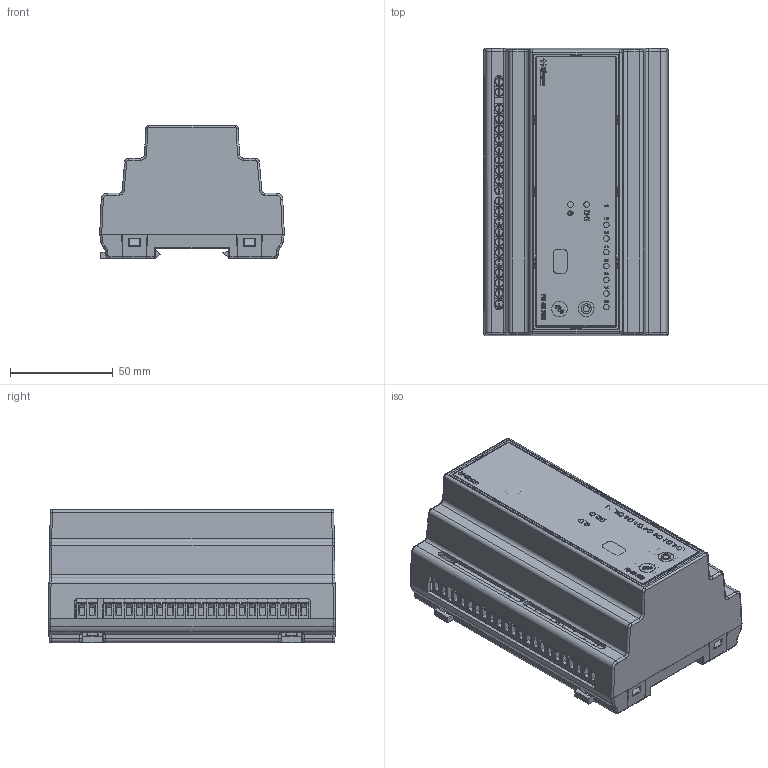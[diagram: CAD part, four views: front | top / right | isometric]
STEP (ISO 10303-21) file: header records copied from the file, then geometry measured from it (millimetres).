
FILE_DESCRIPTION(/* description */ (''),/* implementation_level */ '2;1');
FILE_NAME(/* name */ 'PS-08 230.step',/* time_stamp */ '2026-01-24T09:53:17+01:00',/* author */ (''),/* organization */ (''),/* preprocessor_version */ 'ST-DEVELOPER v20.1',/* originating_system */ 'Autodesk Translation Framework v14.24.0.0',/* authorisation */ '');
FILE_SCHEMA (('AUTOMOTIVE_DESIGN { 1 0 10303 214 3 1 1 }'));
Products named in the file (29): OP-1017backup; OP-1017_A; OP-1017_B_3; OP-1017_D; NAK_1017_D; ST-1007_2_0_E; PCB Component; Board; VP31; B_SMD_WA; TO252; 317TS; 1X12; SOT23; SOD80C; SOT23@1; R0805; C1206; E5-10,5; TE5; FIDUCIAL_G10; ANGLE-SW1-16_1; HF46F; 140CLH-1010; Skręcana łączka_1pin; Dystans M3-01; PS-08m230 naklejka; OP-267-D; S_023.05.000.00064 /...63
Assembly tree (97 placements, depth 4):
  OP-1017backup
    OP-1017_A
    OP-1017_B_3
    OP-1017_D
    NAK_1017_D
    OP-267-D  x2
    S_023.05.000.00064 /...63  x4
    ST-1007_2_0_E
      PCB Component
        Board
        SOD80C  x8
        SOT23@1  x8
        R0805  x8
        C1206  x2
        E5-10,5  x2
        VP31
        B_SMD_WA
        TE5  x2
        FIDUCIAL_G10  x6
        ANGLE-SW1-16_1  x6
        HF46F  x8
        TO252
        317TS
        1X12
        SOT23
        140CLH-1010  x4
        Skręcana łączka_1pin  x22
    Dystans M3-01
    PS-08m230 naklejka
Bounding box: 90 x 140 x 65.1 mm (x, y, z)
Volume: 134691.1 mm3; surface area: 177867.5 mm2
Topology: 139 solids, 139 shells, 6748 faces, 18344 edges, 12096 vertices
Faces by surface type: plane 5367, cylinder 838, bspline 368, cone 129, torus 38, sphere 8
Full cylindrical faces by diameter (mm): 0.5 x62, 0.6 x64, 0.9 x16, 1 x44, 1.016 x16, 1.1 x3, 1.2 x16, 1.3 x8, 1.321 x4, 1.6 x11, 2.9 x4, 2.944 x1, 3 x7, 3.2 x2, 3.5 x5, 3.7 x22, 4 x22, 4.849 x1, 7.6 x2, 10 x8
Entity records: 169022 total; most frequent: CARTESIAN_POINT 35133, ORIENTED_EDGE 28582, DIRECTION 25041, EDGE_CURVE 14291, LINE 11955, VECTOR 11955, VERTEX_POINT 9415, AXIS2_PLACEMENT_3D 6543
